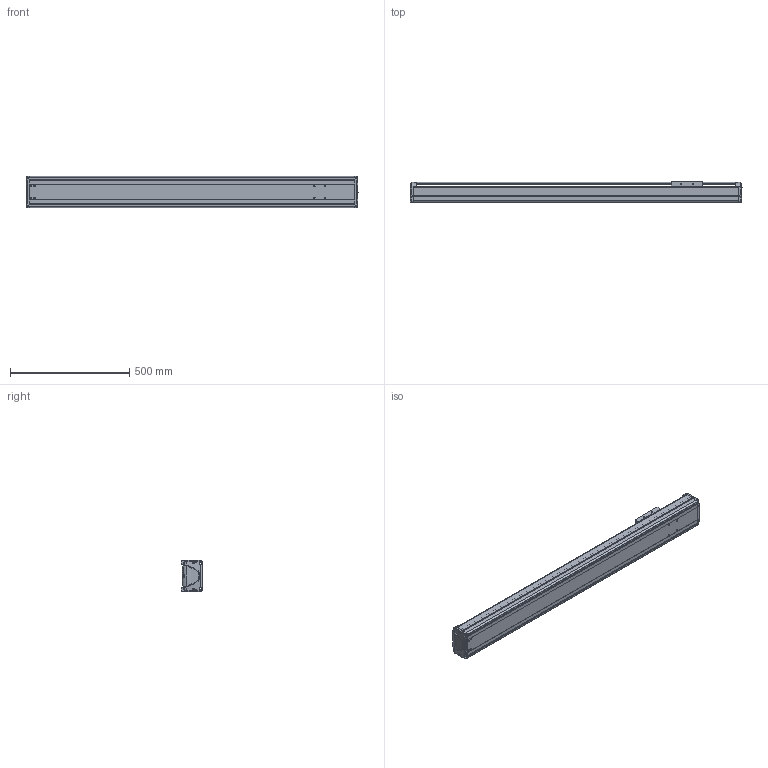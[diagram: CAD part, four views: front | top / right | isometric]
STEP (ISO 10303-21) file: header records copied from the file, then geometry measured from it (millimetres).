
FILE_DESCRIPTION((''),'2;1');
FILE_NAME('BE30E-ST-M_N-A5_IGS_PRT','2017-06-17T',(' '),(''),'PRO/ENGINEER BY PARAMETRIC TECHNOLOGY CORPORATION, 2015030','PRO/ENGINEER BY PARAMETRIC TECHNOLOGY CORPORATION, 2015030','');
FILE_SCHEMA(('CONFIG_CONTROL_DESIGN'));
Length unit declared in the file: millimetre
Products named in the file (1): BE30E-ST-M_N-A5_IGS_PRT
Bounding box: 1390 x 89.8 x 130 mm (x, y, z)
Volume: 4201298.1 mm3; surface area: 1647168.4 mm2
Topology: 3 solids, 94 shells, 1394 faces, 3758 edges, 2459 vertices
Faces by surface type: cylinder 647, plane 596, bspline 55, torus 42, cone 30, sphere 24
Entity records: 46893 total; most frequent: CARTESIAN_POINT 11745, DIRECTION 7253, ORIENTED_EDGE 7112, EDGE_CURVE 3738, AXIS2_PLACEMENT_3D 2636, VERTEX_POINT 2459, VECTOR 1981, LINE 1981
